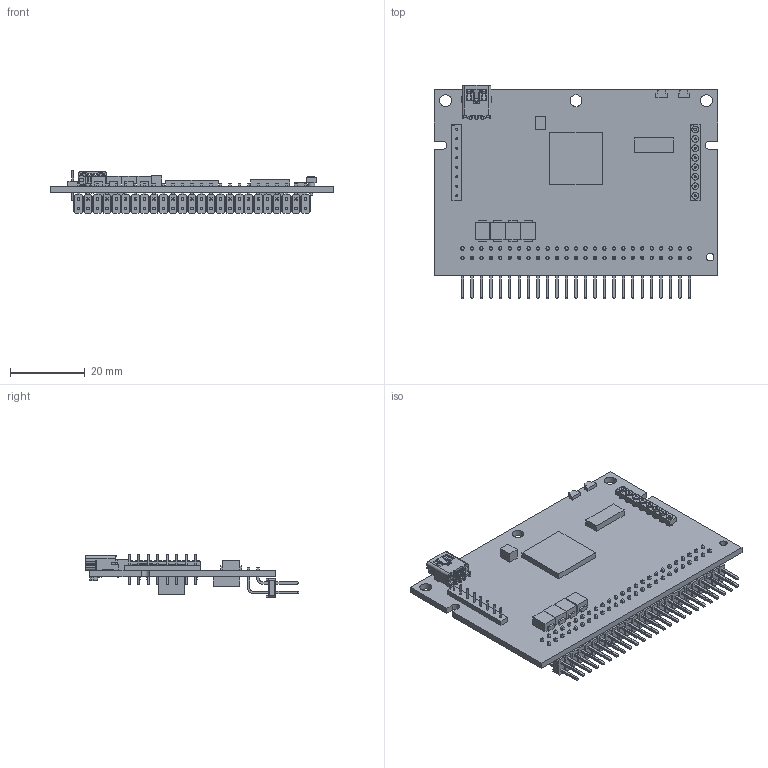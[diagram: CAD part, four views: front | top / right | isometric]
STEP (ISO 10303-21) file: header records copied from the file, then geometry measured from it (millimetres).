
FILE_DESCRIPTION(/* description */ (''),/* implementation_level */ '2;1');
FILE_NAME(/* name */ 'PLATINE MC5004 P STO RS_CO.stp',/* time_stamp */ '2017-11-21T10:22:03+01:00',/* author */ ('DR. FRITZ FAULHABER GmbH & Co. KG'),/* organization */ ('DR. FRITZ FAULHABER GmbH & Co. KG'),/* preprocessor_version */ 'ST-DEVELOPER v16',/* originating_system */ 'SIEMENS PLM Software NX 10.0',/* authorisation */ '');
FILE_SCHEMA (('AUTOMOTIVE_DESIGN { 1 0 10303 214 3 1 1 1 }'));
Products named in the file (1): H00001398_A
Bounding box: 76 x 57.22 x 11.55 mm (x, y, z)
Volume: 8573.1 mm3; surface area: 12976.9 mm2
Topology: 1 solids, 1 shells, 2443 faces, 6806 edges, 4320 vertices
Faces by surface type: plane 2070, cylinder 347, bspline 18, cone 8
Full cylindrical faces by diameter (mm): 0.5 x23, 0.6 x8, 0.7 x5, 0.74 x1, 0.76 x8, 0.96 x8, 1.83 x16, 2 x1, 3.2 x3
Entity records: 77710 total; most frequent: CARTESIAN_POINT 14950, ORIENTED_EDGE 13402, DIRECTION 12093, EDGE_CURVE 6701, LINE 5849, VECTOR 5849, VERTEX_POINT 4288, AXIS2_PLACEMENT_3D 3122
